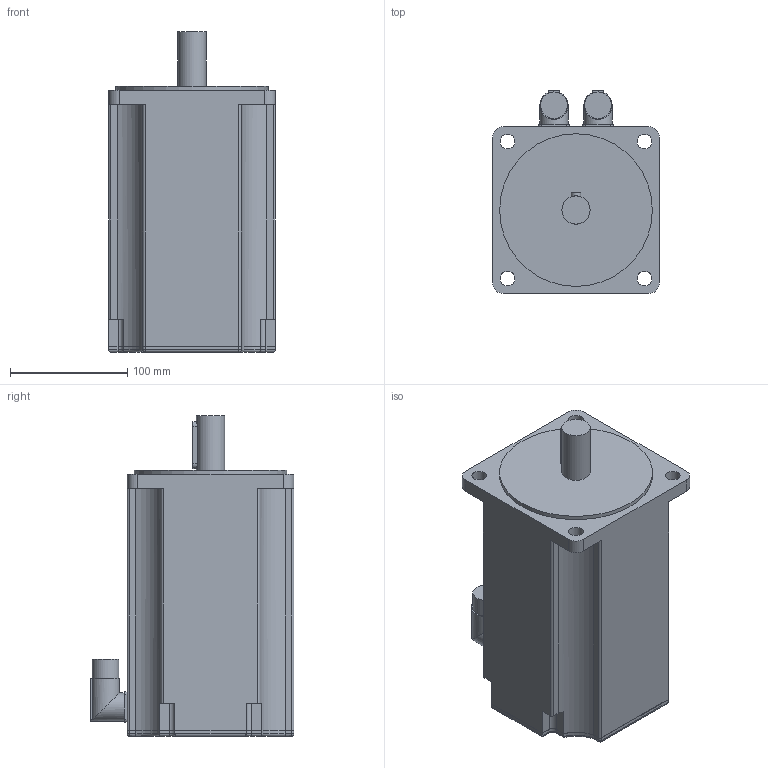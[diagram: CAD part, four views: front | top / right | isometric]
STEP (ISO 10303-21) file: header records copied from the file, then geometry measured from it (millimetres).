
FILE_DESCRIPTION(/* description */ (''),/* implementation_level */ '2;1');
FILE_NAME(/* name */ '\\Lafnas01\disegni\Archivi Lafert\3D\CAD 3D\MODELLI\Assiemi clienti\Serad\Modelli 3D Serad\B71Q\Resolver\Res Without Brake\B7116Qxx6A052033.ipt.stp',/* time_stamp */ '2015-09-07T10:53:01+02:00',/* author */ ('Pastrello Ylenia'),/* organization */ (''),/* preprocessor_version */ 'ST-DEVELOPER v15.6',/* originating_system */ 'Autodesk Inventor 2015',/* authorisation */ '');
FILE_SCHEMA (('AUTOMOTIVE_DESIGN { 1 0 10303 214 3 1 1 }'));
Length unit declared in the file: millimetre
Products named in the file (1): B7116Qxx6A052033
Bounding box: 142 x 173.5 x 273 mm (x, y, z)
Volume: 4008462 mm3; surface area: 170756.6 mm2
Topology: 1 solids, 1 shells, 154 faces, 400 edges, 258 vertices
Faces by surface type: plane 72, cylinder 70, torus 8, sphere 4
Full cylindrical faces by diameter (mm): 12.5 x4, 22.7 x2, 24 x3, 130 x1
Entity records: 4790 total; most frequent: CARTESIAN_POINT 933, DIRECTION 828, ORIENTED_EDGE 772, EDGE_CURVE 386, AXIS2_PLACEMENT_3D 297, VERTEX_POINT 254, LINE 234, VECTOR 234
